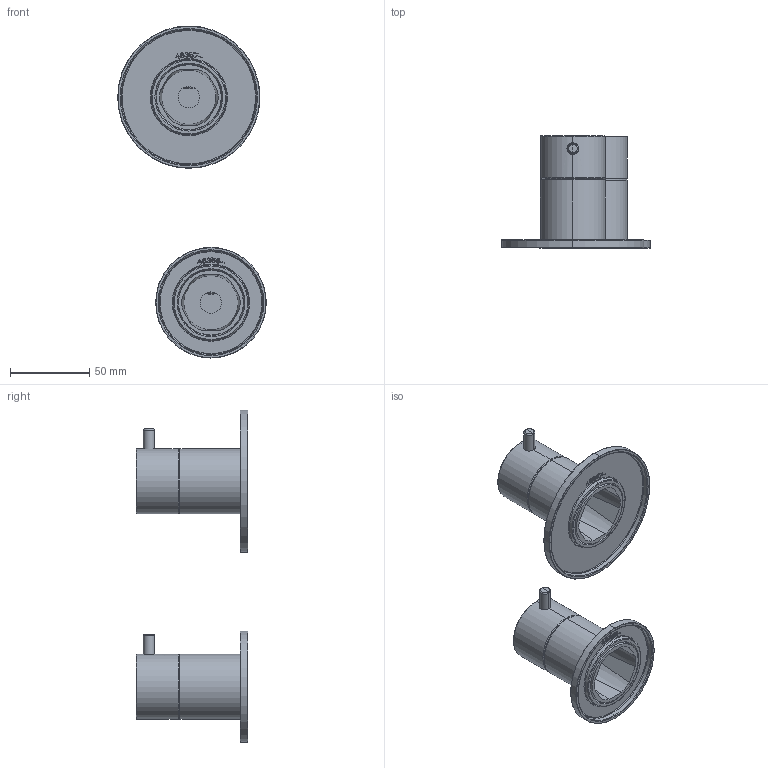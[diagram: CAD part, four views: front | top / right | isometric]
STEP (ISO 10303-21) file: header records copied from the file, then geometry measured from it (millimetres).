
FILE_DESCRIPTION((''),'2;1');
FILE_NAME('76712--00_ASM','2026-03-12T14:12:00',('clra1'),(''),'CREO PARAMETRIC BY PTC INC, 2022244','CREO PARAMETRIC BY PTC INC, 2022244','');
FILE_SCHEMA(('CONFIG_CONTROL_DESIGN'));
Length unit declared in the file: millimetre
Products named in the file (20): 46372--; 4396500; 46373--_ASM; 44978--; 4498000; 46498--_ASM; 46022--; 44986--; 4498800; 44989--_ASM; 76709--00_SUB01_ASM; 46492--; 46356--_ASM; 4498100; 46017--_ASM; 44979--; 44987--; 44990--_ASM; 76708--00_SUB01_ASM; 76712--00_ASM
Assembly tree (22 placements, depth 4):
  76712--00_ASM
    76709--00_SUB01_ASM
      46373--_ASM
        46372--
        4396500
      46498--_ASM
        44978--
        4498000
      44989--_ASM
        46022--
        44986--
        4498800
    76708--00_SUB01_ASM
      46356--_ASM
        46492--
        4396500
      46017--_ASM
        44978--
        4498100
      44990--_ASM
        44979--
        44987--
        4498800
Bounding box: 94 x 70.8 x 210 mm (x, y, z)
Volume: 75936.5 mm3; surface area: 76672.3 mm2
Topology: 14 solids, 14 shells, 2340 faces, 6283 edges, 4021 vertices
Faces by surface type: plane 1341, cylinder 475, torus 204, bspline 155, cone 111, sphere 54
Entity records: 76138 total; most frequent: CARTESIAN_POINT 25593, ORIENTED_EDGE 11136, DIRECTION 9520, EDGE_CURVE 5568, VERTEX_POINT 3571, VECTOR 3476, LINE 3476, AXIS2_PLACEMENT_3D 3022
